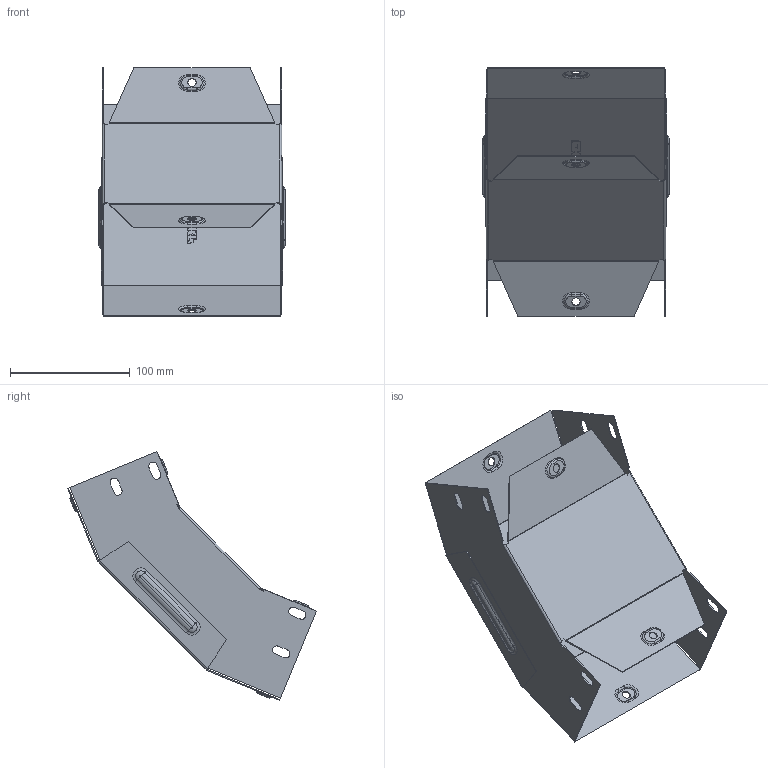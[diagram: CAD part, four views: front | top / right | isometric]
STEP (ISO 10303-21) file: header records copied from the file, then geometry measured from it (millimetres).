
FILE_DESCRIPTION (( 'STEP AP214' ), '1' );
FILE_NAME ('vo4580150_捘.STEP', '2019-06-10T08:18:32', ( '砐錪賧瘔蠈錪 Windows' ), ( '' ), 'SwSTEP 2.0', 'SolidWorks 2018', '' );
FILE_SCHEMA (( 'AUTOMOTIVE_DESIGN' ));
Length unit declared in the file: millimetre
Products named in the file (1): vo4580150_捘
Bounding box: 155.6 x 207.86 x 207.86 mm (x, y, z)
Volume: 85704.3 mm3; surface area: 216493.3 mm2
Topology: 2 solids, 2 shells, 372 faces, 918 edges, 572 vertices
Faces by surface type: plane 173, cylinder 118, torus 64, bspline 17
Entity records: 11622 total; most frequent: CARTESIAN_POINT 2627, DIRECTION 1896, ORIENTED_EDGE 1836, EDGE_CURVE 918, AXIS2_PLACEMENT_3D 672, VERTEX_POINT 572, LINE 552, VECTOR 552
